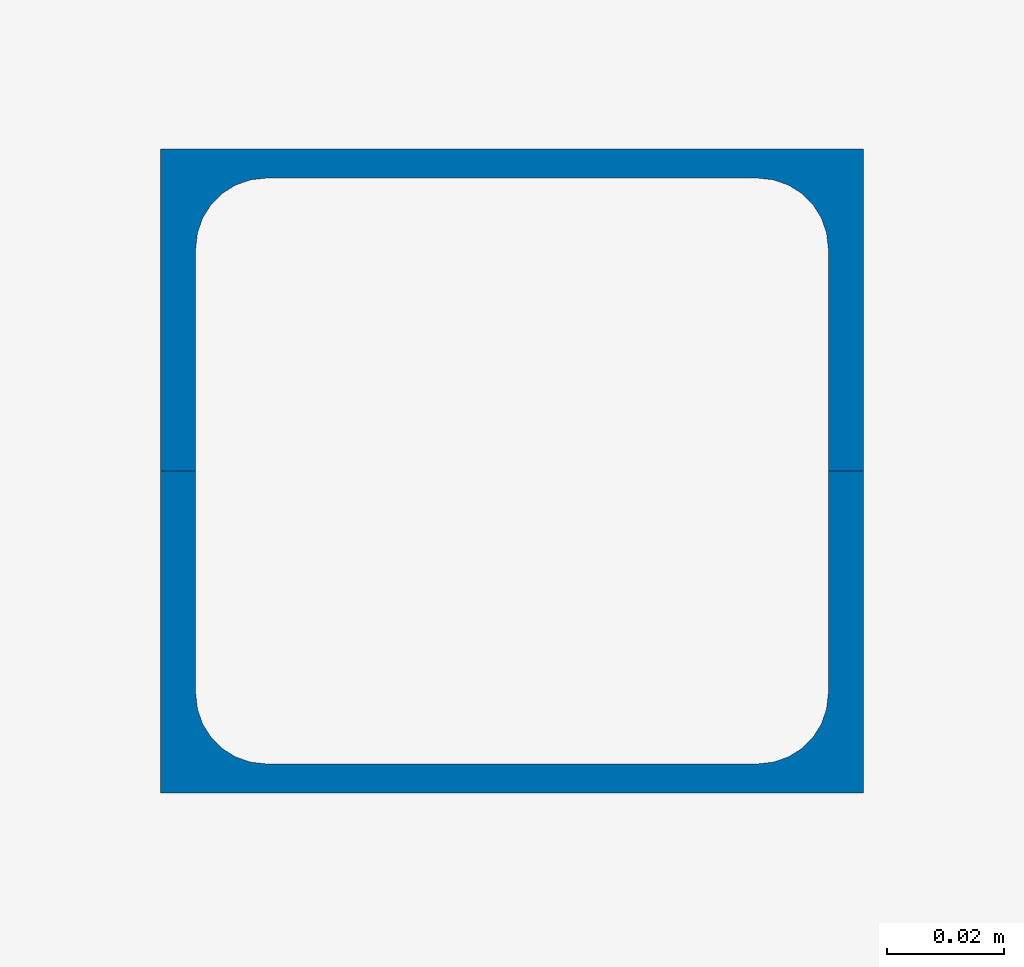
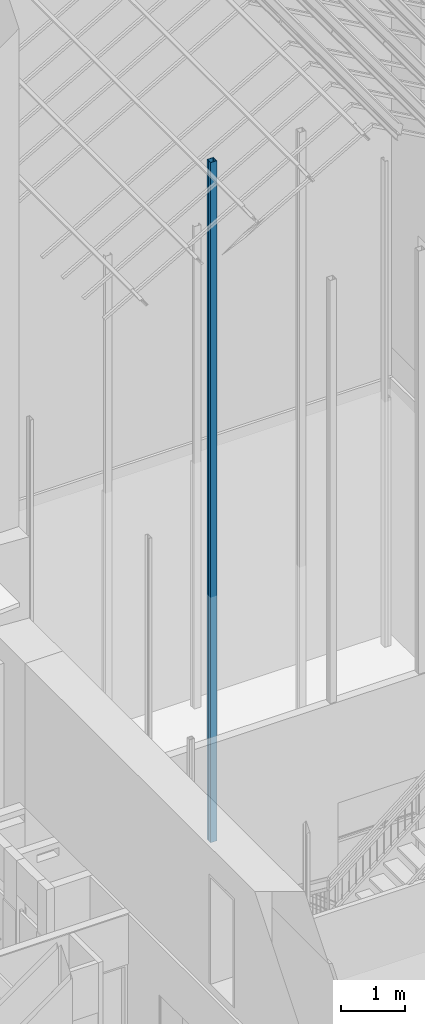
# One storey, part 6 of 75: 2 columns.
"""IFC2X3 building model written with IfcOpenShell, lengths in metres."""

from ifc_helpers import new_model, entity, si_unit, converted_unit, derived_unit, direction, frame, frame_2d, origin, place, context, subcontext, project, spatial, polyline, circle_curve, parameter, trimmed, segment, composite_curve, outline, extrude, source, transform, mapped, material, type_object, type_shapes, element, save


model = new_model("IFC2X3")

# Units and contexts
model_context = context("Model", 3, precision=1e-05, world=origin(), true_north=direction((6.12303176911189e-17, 1.0)))
body_context = subcontext(model_context, "Body", "Model", "MODEL_VIEW")
ifc_project = project(units=[si_unit("LENGTHUNIT", "METRE"), si_unit("AREAUNIT", "SQUARE_METRE"), si_unit("VOLUMEUNIT", "CUBIC_METRE"), converted_unit("PLANEANGLEUNIT", "DEGREE", entity("IfcRatioMeasure", 0.0174532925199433), si_unit("PLANEANGLEUNIT", "RADIAN"), dimensions=[0, 0, 0, 0, 0, 0, 0]), si_unit("MASSUNIT", "GRAM", prefix="KILO"), derived_unit("MASSDENSITYUNIT", [(si_unit("MASSUNIT", "GRAM", prefix="KILO"), 1), (si_unit("LENGTHUNIT", "METRE"), -3)]), derived_unit("MOMENTOFINERTIAUNIT", [(si_unit("LENGTHUNIT", "METRE"), 4)]), si_unit("TIMEUNIT", "SECOND"), si_unit("FREQUENCYUNIT", "HERTZ"), si_unit("THERMODYNAMICTEMPERATUREUNIT", "DEGREE_CELSIUS"), derived_unit("THERMALTRANSMITTANCEUNIT", [(si_unit("MASSUNIT", "GRAM", prefix="KILO"), 1), (si_unit("THERMODYNAMICTEMPERATUREUNIT", "KELVIN"), -1), (si_unit("TIMEUNIT", "SECOND"), -3)]), derived_unit("VOLUMETRICFLOWRATEUNIT", [(si_unit("LENGTHUNIT", "METRE"), 3), (si_unit("TIMEUNIT", "SECOND"), -1)]), si_unit("ELECTRICCURRENTUNIT", "AMPERE"), si_unit("ELECTRICVOLTAGEUNIT", "VOLT"), si_unit("POWERUNIT", "WATT"), si_unit("FORCEUNIT", "NEWTON", prefix="KILO"), si_unit("ILLUMINANCEUNIT", "LUX"), si_unit("LUMINOUSFLUXUNIT", "LUMEN"), si_unit("LUMINOUSINTENSITYUNIT", "CANDELA"), derived_unit("USERDEFINED", [(si_unit("MASSUNIT", "GRAM", prefix="KILO"), -1), (si_unit("LENGTHUNIT", "METRE"), -2), (si_unit("TIMEUNIT", "SECOND"), 3), (si_unit("LUMINOUSFLUXUNIT", "LUMEN"), 1)]), derived_unit("LINEARVELOCITYUNIT", [(si_unit("LENGTHUNIT", "METRE"), 1), (si_unit("TIMEUNIT", "SECOND"), -1)]), si_unit("PRESSUREUNIT", "PASCAL"), derived_unit("USERDEFINED", [(si_unit("LENGTHUNIT", "METRE"), -2), (si_unit("MASSUNIT", "GRAM", prefix="KILO"), 1), (si_unit("TIMEUNIT", "SECOND"), -2)]), derived_unit("LINEARFORCEUNIT", [(si_unit("MASSUNIT", "GRAM", prefix="KILO"), 1), (si_unit("LENGTHUNIT", "METRE"), 1), (si_unit("TIMEUNIT", "SECOND"), -2), (si_unit("LENGTHUNIT", "METRE"), -1)]), derived_unit("PLANARFORCEUNIT", [(si_unit("MASSUNIT", "GRAM", prefix="KILO"), 1), (si_unit("LENGTHUNIT", "METRE"), 1), (si_unit("TIMEUNIT", "SECOND"), -2), (si_unit("LENGTHUNIT", "METRE"), -2)])], contexts=[model_context])

# Site, building, storey
site_placement = place(None, origin())
site = spatial("IfcSite", under=ifc_project, at=site_placement, Name="Superficie", CompositionType="ELEMENT")
building_placement = place(site_placement, origin())
building = spatial("IfcBuilding", under=site, at=building_placement, Name="Telegestiones", CompositionType="ELEMENT")
storey_placement = place(building_placement, origin())
storey = spatial("IfcBuildingStorey", under=building, at=storey_placement, Name="Nivel 0_NPT", CompositionType="ELEMENT", Elevation=0.0)

# Columns
ifc_material = material(Name="Metal - Acero - 345 MPa")
column_type_1 = type_object("IfcColumnType", Name="UPE - Canales de ala paralela - Pilar:UPE 120", PredefinedType="COLUMN", material=ifc_material)
shared_shape_1 = source(origin(), body_context, "Body", "SweptSolid", [
    extrude(outline(composite_curve([segment(polyline([(-0.0599999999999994, -0.0264), (0.0600000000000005, -0.0264)]), True, "CONTINUOUS"), segment(polyline([(0.0600000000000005, -0.0264), (0.0600000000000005, 0.0286)]), True, "CONTINUOUS"), segment(polyline([(0.0600000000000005, 0.0286), (0.0539999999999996, 0.0286)]), True, "CONTINUOUS"), segment(polyline([(0.0539999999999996, 0.0286), (0.0539999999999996, -0.00939999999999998)]), True, "CONTINUOUS"), segment(trimmed(circle_curve(frame_2d((0.0419999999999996, -0.0094), x_axis=(1.0, 0.0)), 0.012), [parameter(270.0)], [parameter(0.0)], True, "PARAMETER"), False, "CONTINUOUS"), segment(polyline([(0.0419999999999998, -0.0214), (-0.0420000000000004, -0.0214)]), True, "CONTINUOUS"), segment(trimmed(circle_curve(frame_2d((-0.0420000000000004, -0.00940000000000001), x_axis=(0.0, -1.0)), 0.012), [parameter(270.0)], [parameter(0.0)], True, "PARAMETER"), False, "CONTINUOUS"), segment(polyline([(-0.0540000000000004, -0.0094), (-0.0540000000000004, 0.0286)]), True, "CONTINUOUS"), segment(polyline([(-0.0540000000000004, 0.0286), (-0.0599999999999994, 0.0286)]), True, "CONTINUOUS"), segment(polyline([(-0.0599999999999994, 0.0286), (-0.0599999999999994, -0.0264)]), True, "CONTINUOUS")], self_intersect=False)), frame((0.00660000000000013, 0.0, 0.0), z_axis=(0.0, 0.0, 1.0), x_axis=(0.0, -1.0, 0.0)), (0.0, 0.0, 1.0), 13.07),
])
type_shapes(column_type_1, [shared_shape_1])
column_1_placement = place(storey_placement, frame((9.64781262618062, 10.1434072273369, 0.0), z_axis=(0.0, 0.0, 1.0), x_axis=(0.0, 1.0, 0.0)))
element("IfcColumn", 1, at=column_1_placement, inside=storey, type_object=column_type_1, Name="UPE - Canales de ala paralela - Pilar:UPE 120", ObjectType="UPE - Canales de ala paralela - Pilar:UPE 120", context=body_context, shape_type="MappedRepresentation", body=[
    mapped(shared_shape_1, transform((0.0, 0.0, 0.0), scale=1.0)),
])
column_type_2 = type_object("IfcColumnType", Name="UPE - Canales de ala paralela - Pilar:UPE 120", PredefinedType="COLUMN", material=ifc_material)
shared_shape_2 = source(origin(), body_context, "Body", "SweptSolid", [
    extrude(outline(composite_curve([segment(polyline([(-0.0600000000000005, -0.0264), (0.0599999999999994, -0.0264)]), True, "CONTINUOUS"), segment(polyline([(0.0599999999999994, -0.0264), (0.0599999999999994, 0.0286)]), True, "CONTINUOUS"), segment(polyline([(0.0599999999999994, 0.0286), (0.0540000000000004, 0.0286)]), True, "CONTINUOUS"), segment(polyline([(0.0540000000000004, 0.0286), (0.0540000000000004, -0.00939999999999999)]), True, "CONTINUOUS"), segment(trimmed(circle_curve(frame_2d((0.0420000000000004, -0.00939999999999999), x_axis=(1.0, 0.0)), 0.012), [parameter(270.0)], [parameter(0.0)], True, "PARAMETER"), False, "CONTINUOUS"), segment(polyline([(0.0420000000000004, -0.0214), (-0.0419999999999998, -0.0214)]), True, "CONTINUOUS"), segment(trimmed(circle_curve(frame_2d((-0.0419999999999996, -0.00939999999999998), x_axis=(0.0, -1.0)), 0.012), [parameter(270.0)], [parameter(0.0)], True, "PARAMETER"), False, "CONTINUOUS"), segment(polyline([(-0.0539999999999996, -0.00939999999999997), (-0.0539999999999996, 0.0286)]), True, "CONTINUOUS"), segment(polyline([(-0.0539999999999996, 0.0286), (-0.0600000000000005, 0.0286)]), True, "CONTINUOUS"), segment(polyline([(-0.0600000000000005, 0.0286), (-0.0600000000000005, -0.0264)]), True, "CONTINUOUS")], self_intersect=False)), frame((0.00660000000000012, 0.0, 0.0), z_axis=(0.0, 0.0, 1.0), x_axis=(0.0, -1.0, 0.0)), (0.0, 0.0, 1.0), 13.07),
])
type_shapes(column_type_2, [shared_shape_2])
column_2_placement = place(storey_placement, frame((9.64781262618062, 10.2138072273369, 0.0), z_axis=(0.0, 0.0, 1.0), x_axis=(0.0, -1.0, 0.0)))
element("IfcColumn", 2, at=column_2_placement, inside=storey, type_object=column_type_2, Name="UPE - Canales de ala paralela - Pilar:UPE 120", ObjectType="UPE - Canales de ala paralela - Pilar:UPE 120", context=body_context, shape_type="MappedRepresentation", body=[
    mapped(shared_shape_2, transform((0.0, 0.0, 0.0), scale=1.0)),
])

save(model, "model.ifc")
